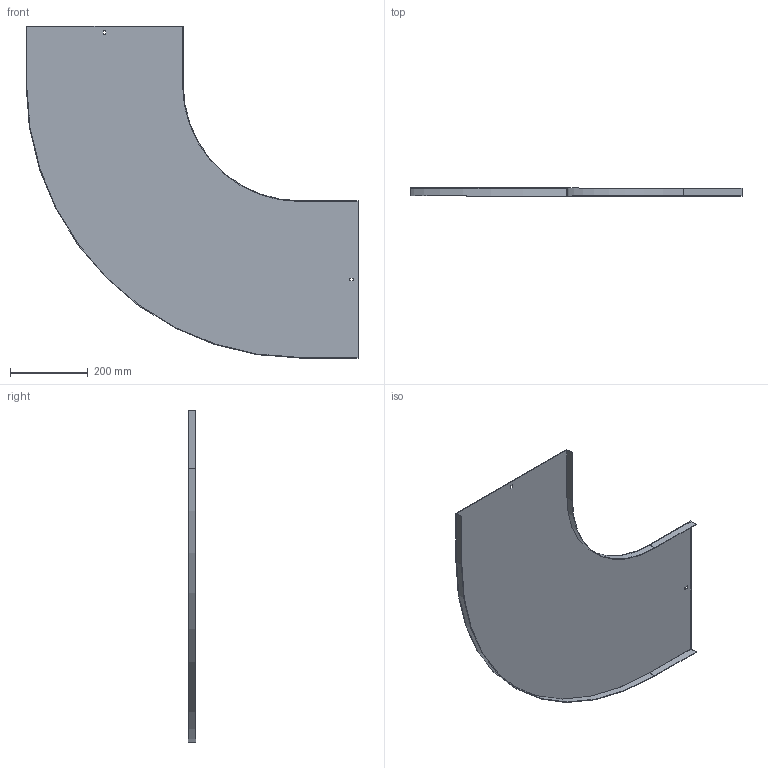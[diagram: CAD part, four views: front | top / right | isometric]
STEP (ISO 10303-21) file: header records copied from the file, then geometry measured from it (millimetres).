
FILE_DESCRIPTION (( 'STEP AP214' ), '1' );
FILE_NAME ('A2_10N3R400.step', '2025-02-21T10:53:51', ( '' ), ( '' ), 'SwSTEP 2.0', 'SolidWorks 2023', '' );
FILE_SCHEMA (( 'AUTOMOTIVE_DESIGN' ));
Length unit declared in the file: millimetre
Products named in the file (1): A2_10N3R400
Bounding box: 851.5 x 20 x 851.5 mm (x, y, z)
Volume: 716187.3 mm3; surface area: 959585.6 mm2
Topology: 1 solids, 1 shells, 26 faces, 72 edges, 48 vertices
Faces by surface type: plane 22, cylinder 4
Entity records: 855 total; most frequent: CARTESIAN_POINT 147, ORIENTED_EDGE 144, DIRECTION 134, EDGE_CURVE 72, VECTOR 64, LINE 64, VERTEX_POINT 48, AXIS2_PLACEMENT_3D 35
